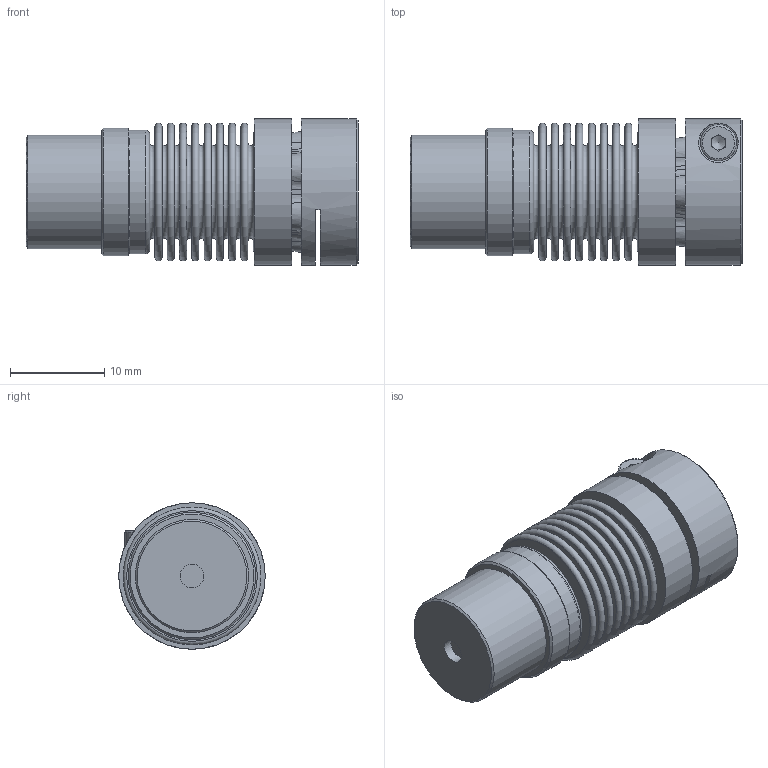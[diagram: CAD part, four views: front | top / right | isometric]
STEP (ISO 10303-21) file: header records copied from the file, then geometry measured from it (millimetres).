
FILE_DESCRIPTION( ( 'KBE1/14 - N7H8 - N14H7 - 98 Sh' ), '1' );
FILE_NAME( 'K:/Konstruktion/Fertigungszeichnungen/Metallbalgkupplung/KB3P/5-10/KB3P-5-28.stp', '14.12.2015', ( 'KBK-Antriebstechnik' ), ( 'KBK-Antriebstechnik' ), 'PSStep 16.0.42', 'Solid Edge St6', ' ' );
FILE_SCHEMA( ( 'AUTOMOTIVE_DESIGN { 1 0 10303 214 1 1 1 1 }' ) );
Length unit declared in the file: millimetre
Products named in the file (7): Assem1; Socket Head Cap Screw_DIN_DIN 912 M2 x 8 --- 8N_5; SN10; Stecknabe KB2P-10; Balgaufnahme KB2P-10_für Step; BM5_Standard_1; ISO EN DIN 4762 M3x12
Assembly tree (6 placements, depth 2):
  Assem1
    Socket Head Cap Screw_DIN_DIN 912 M2 x 8 --- 8N_5
    SN10
    Stecknabe KB2P-10
    Balgaufnahme KB2P-10_für Step
    BM5_Standard_1
    ISO EN DIN 4762 M3x12
Bounding box: 35.15 x 15.5 x 15.5 mm (x, y, z)
Volume: 3680.8 mm3; surface area: 6820.5 mm2
Topology: 6 solids, 6 shells, 205 faces, 419 edges, 270 vertices
Faces by surface type: plane 81, cone 59, torus 43, cylinder 22
Full cylindrical faces by diameter (mm): 1.567 x1, 2 x1, 2.2 x1, 2.5 x1, 2.98 x1, 3 x3, 3.8 x1, 5 x1, 12 x1, 12.9 x3, 13.1 x2, 13.5 x1, 15.5 x2
Entity records: 6995 total; most frequent: CARTESIAN_POINT 998, DIRECTION 971, ORIENTED_EDGE 678, AXIS2_PLACEMENT_3D 442, EDGE_CURVE 339, EDGE_LOOP 331, VERTEX_POINT 277, FACE_OUTER_BOUND 267
